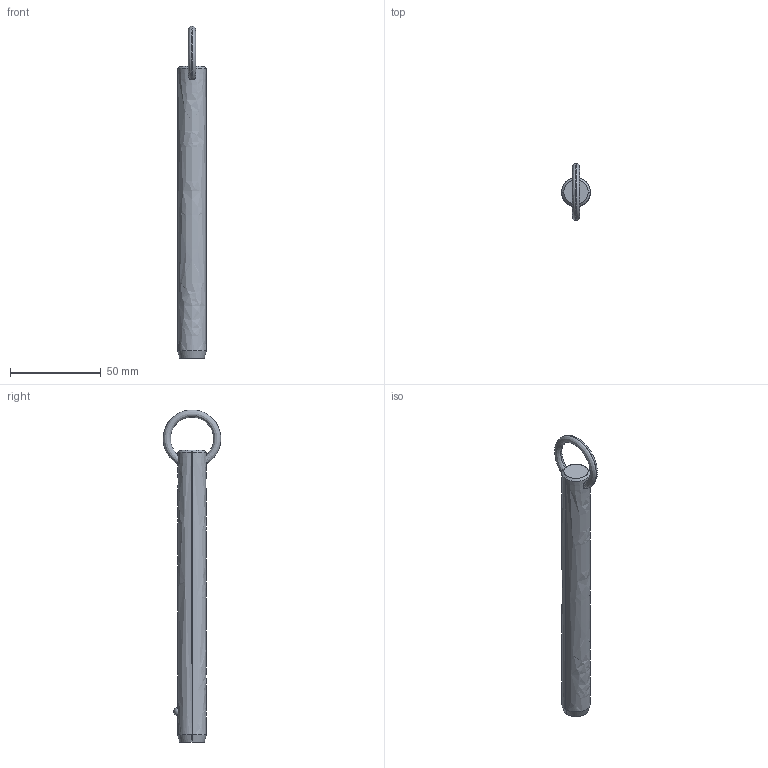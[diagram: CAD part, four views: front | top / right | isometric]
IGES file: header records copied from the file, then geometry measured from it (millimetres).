
Start section: SolidWorks IGES file using analytic representation for surfaces
Global section: file name: C:\Users\liam_\OneDrive\Documents\WORK\Work for WixRoyd\Job Files\J-00019 - Matt Davis CAD Checking\04. CAD Drawings\automotion20190605\P1250.2_v2\P1250.2_v2_20190729_IGES\P1250.062-520.igs; native system: SolidWorks 2017; preprocessor: SolidWorks 2017; author: liam_; date: 190729.233942; units: millimetre
Bounding box: 15.8 x 31.65 x 182.79 mm (x, y, z)
Surface area: 9145.6 mm2 (no closed solid volume)
Topology: 0 solids, 0 shells, 12 faces, 292 edges, 290 vertices
Faces by surface type: revolution 8, bspline 4
